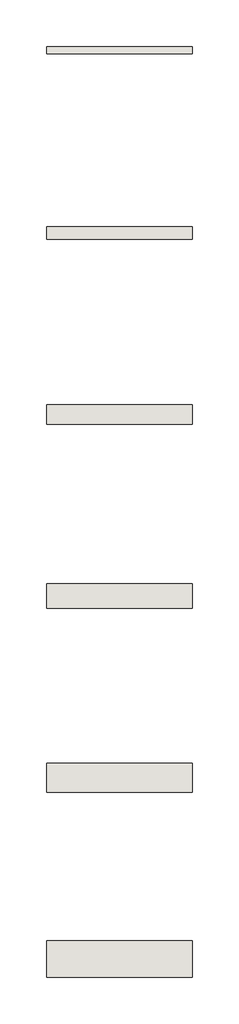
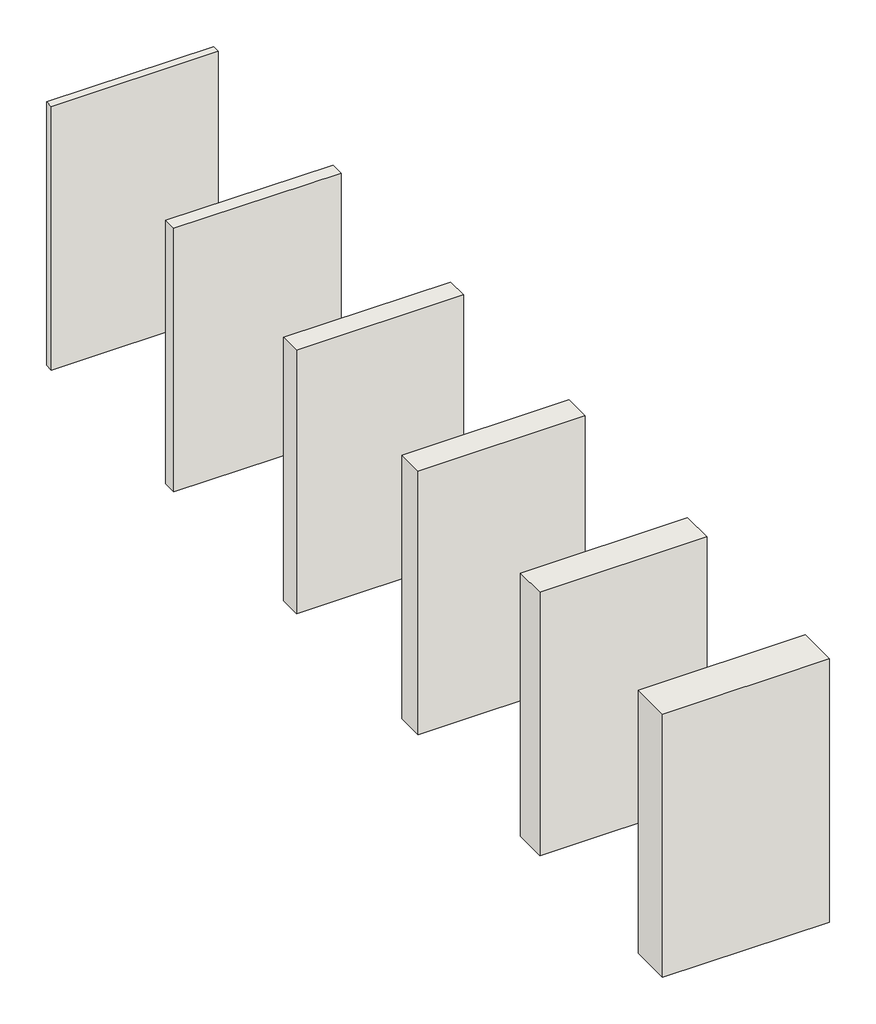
# One storey: 6 walls.
"""IFC4 building model written with IfcOpenShell, lengths in millimetres."""

from ifc_helpers import new_model, si_unit, origin, origin_with_axes, place, context, project, spatial, polyline, outline, extrude, element, save

model = new_model("IFC4")

# Units and contexts
model_context = context("Model", 3, world=origin())
ifc_project = project(units=[si_unit("LENGTHUNIT", "METRE", prefix="MILLI")], contexts=[model_context])

# Site, building, storey
site = spatial("IfcSite", under=ifc_project)
building = spatial("IfcBuilding", under=site)
storey = spatial("IfcBuildingStorey", under=building, Name="Референтни ниво", Elevation=0.0)

# Walls
placement = place(None, origin())
element("IfcWall", 1, ObjectType="Knauf Insulation - FKD-S Thermal - 30 mm - 30 x 1000 x 600 mm", at=placement, inside=storey, context=model_context, shape_type="SweptSolid", body=[
    extrude(outline(polyline([(-242808.9890323, 183202.205474), (-243408.9890323, 183202.205474), (-243408.9890323, 183232.205474), (-242808.9890323, 183232.205474), (-242808.9890323, 183202.205474)])), origin_with_axes(), (0.0, 0.0, 1.0), 1000.0),
])
element("IfcWall", 2, ObjectType="Knauf Insulation - FKD-S Thermal - 50 mm - 50 x 1000 x 600 mm", at=placement, inside=storey, context=model_context, shape_type="SweptSolid", body=[
    extrude(outline(polyline([(-242808.9890323, 182439.705474), (-243408.9890323, 182439.705474), (-243408.9890323, 182489.705474), (-242808.9890323, 182489.705474), (-242808.9890323, 182439.705474)])), origin_with_axes(), (0.0, 0.0, 1.0), 1000.0),
])
element("IfcWall", 3, ObjectType="Knauf Insulation - FKD-S Thermal - 80 mm - 80 x 1000 x 600 mm", at=placement, inside=storey, context=model_context, shape_type="SweptSolid", body=[
    extrude(outline(polyline([(-242808.9890323, 181677.205474), (-243408.9890323, 181677.205474), (-243408.9890323, 181757.205474), (-242808.9890323, 181757.205474), (-242808.9890323, 181677.205474)])), origin_with_axes(), (0.0, 0.0, 1.0), 1000.0),
])
element("IfcWall", 4, ObjectType="Knauf Insulation - FKD-S Thermal - 100 mm - 100 x 1000 x 600 mm", at=placement, inside=storey, context=model_context, shape_type="SweptSolid", body=[
    extrude(outline(polyline([(-242808.9890323, 180919.705474), (-243408.9890323, 180919.705474), (-243408.9890323, 181019.705474), (-242808.9890323, 181019.705474), (-242808.9890323, 180919.705474)])), origin_with_axes(), (0.0, 0.0, 1.0), 1000.0),
])
element("IfcWall", 5, ObjectType="Knauf Insulation - FKD-S Thermal - 120 mm - 120 x 1000 x 600 mm", at=placement, inside=storey, context=model_context, shape_type="SweptSolid", body=[
    extrude(outline(polyline([(-242808.9890323, 180162.205474), (-243408.9890323, 180162.205474), (-243408.9890323, 180282.205474), (-242808.9890323, 180282.205474), (-242808.9890323, 180162.205474)])), origin_with_axes(), (0.0, 0.0, 1.0), 1000.0),
])
element("IfcWall", 6, ObjectType="Knauf Insulation - FKD-S Thermal - 150 mm - 150 x 1000 x 600 mm", at=placement, inside=storey, context=model_context, shape_type="SweptSolid", body=[
    extrude(outline(polyline([(-242808.9890323, 179399.705474), (-243408.9890323, 179399.705474), (-243408.9890323, 179549.705474), (-242808.9890323, 179549.705474), (-242808.9890323, 179399.705474)])), origin_with_axes(), (0.0, 0.0, 1.0), 1000.0),
])

save(model, "model.ifc")
